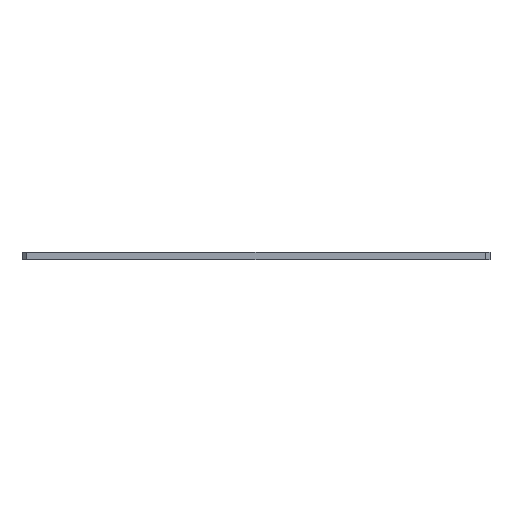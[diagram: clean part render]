
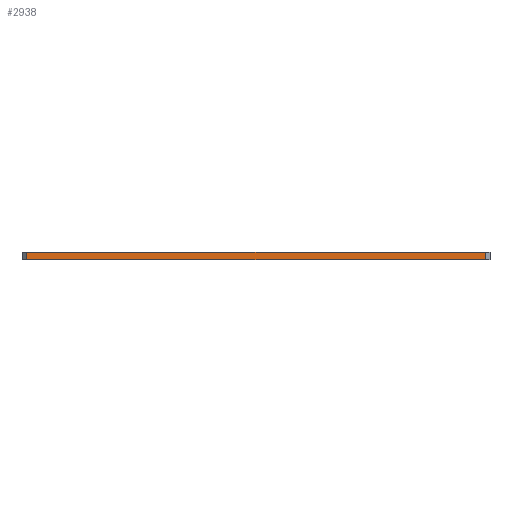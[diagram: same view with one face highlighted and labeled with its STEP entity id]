
A CAD part, front view. The second image highlights one B-rep face of the part: STEP entity #2938.
In plain terms, the highlighted planar face has unit normal (0, -1, 0).
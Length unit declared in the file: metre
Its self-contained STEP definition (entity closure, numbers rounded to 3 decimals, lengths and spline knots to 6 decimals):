
#116=LINE('',#4230,#476);
#258=LINE('',#4558,#618);
#274=LINE('',#4591,#634);
#275=LINE('',#4592,#635);
#476=VECTOR('',#3411,1.);
#618=VECTOR('',#3599,1.);
#634=VECTOR('',#3617,1.);
#635=VECTOR('',#3618,1.);
#1038=ORIENTED_EDGE('',*,*,#1666,.T.);
#1039=ORIENTED_EDGE('',*,*,#1846,.T.);
#1040=ORIENTED_EDGE('',*,*,#1830,.F.);
#1041=ORIENTED_EDGE('',*,*,#1847,.T.);
#1666=EDGE_CURVE('',#2071,#2070,#116,.T.);
#1830=EDGE_CURVE('',#2234,#2235,#258,.T.);
#1846=EDGE_CURVE('',#2070,#2235,#274,.T.);
#1847=EDGE_CURVE('',#2234,#2071,#275,.T.);
#2070=VERTEX_POINT('',#4229);
#2071=VERTEX_POINT('',#4231);
#2234=VERTEX_POINT('',#4559);
#2235=VERTEX_POINT('',#4560);
#2390=EDGE_LOOP('',(#1038,#1039,#1040,#1041));
#2650=FACE_BOUND('',#2390,.T.);
#2816=PLANE('',#3139);
#2938=ADVANCED_FACE('',(#2650),#2816,.T.);
#3139=AXIS2_PLACEMENT_3D('',#4590,#3615,#3616);
#3411=DIRECTION('',(1.,0.,0.));
#3599=DIRECTION('',(1.,0.,0.));
#3615=DIRECTION('',(0.,-1.,0.));
#3616=DIRECTION('',(1.,0.,0.));
#3617=DIRECTION('',(0.,0.,1.));
#3618=DIRECTION('',(0.,0.,-1.));
#4229=CARTESIAN_POINT('',(0.142,-0.239,-0.009));
#4230=CARTESIAN_POINT('',(-0.095875,-0.239,-0.009));
#4231=CARTESIAN_POINT('',(-0.142,-0.239,-0.009));
#4558=CARTESIAN_POINT('',(-0.095875,-0.239,-0.0045));
#4559=CARTESIAN_POINT('',(-0.142,-0.239,-0.0045));
#4560=CARTESIAN_POINT('',(0.142,-0.239,-0.0045));
#4590=CARTESIAN_POINT('',(-0.095875,-0.239,-0.009));
#4591=CARTESIAN_POINT('',(0.142,-0.239,-0.0045));
#4592=CARTESIAN_POINT('',(-0.142,-0.239,-0.009));
